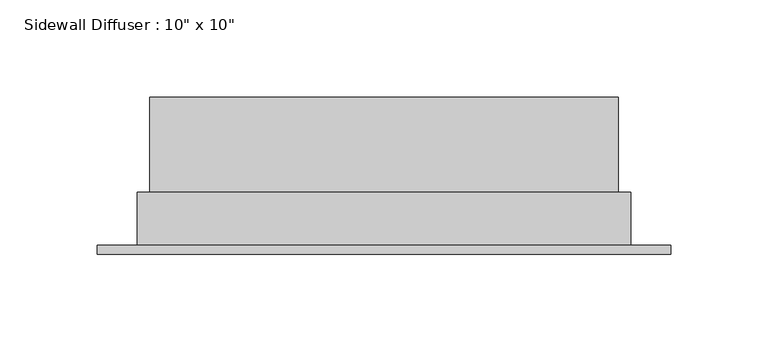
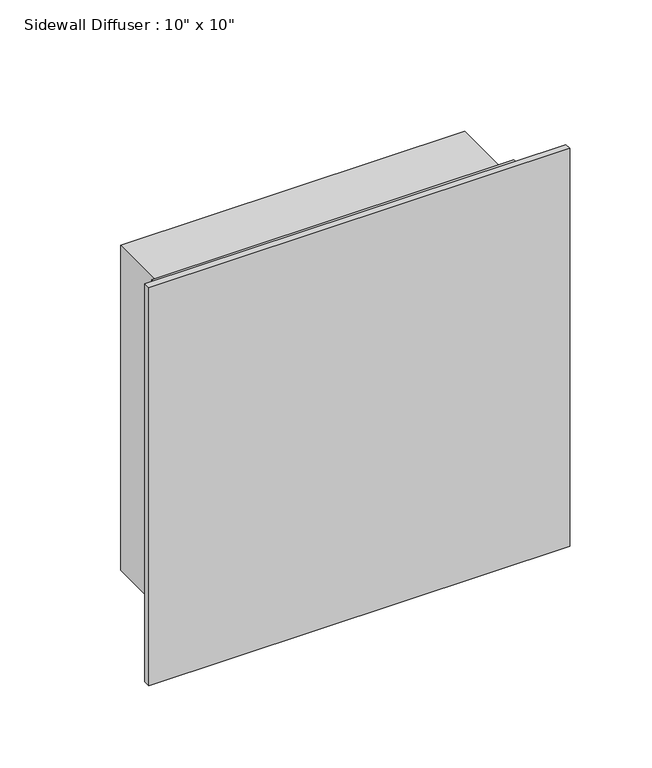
"""IFC4 building model written with IfcOpenShell, lengths in millimetres: air terminal geometry."""

from ifc_helpers import new_model, si_unit, frame, origin, place, context, project, spatial, polyline, outline, extrude, faceted_brep, source, transform, mapped, element, save


def air_terminal_79e12533(model_context):
    return source(origin(), model_context, "Body", "SolidModel", [
        faceted_brep([(-127.0, 27.384375, 127.0), (127.0, 27.384375, 127.0), (127.0, 27.384375, -127.0), (-127.0, 27.384375, -127.0), (-120.65, 27.384375, 120.65), (-120.65, 27.384375, -120.65), (120.65, 27.384375, -120.65), (120.65, 27.384375, 120.65), (-127.0, 0.0, -127.0), (-127.0, 0.0, 127.0), (127.0, 0.0, -127.0), (127.0, 0.0, 127.0), (-120.65, 76.2, 120.65), (120.65, 76.2, 120.65), (120.65, 76.2, -120.65), (-120.65, 76.2, -120.65)], [[[0, 1, 2, 3], [4, 5, 6, 7]], [[8, 9, 0, 3]], [[10, 8, 3, 2]], [[11, 10, 2, 1]], [[9, 11, 1, 0]], [[12, 13, 14, 15]], [[12, 15, 5, 4]], [[15, 14, 6, 5]], [[14, 13, 7, 6]], [[13, 12, 4, 7]], [[9, 8, 10, 11]]]),
        extrude(outline(polyline([(147.6375, -4.7625), (-147.6375, -4.7625), (-147.6375, 0.0), (147.6375, 0.0), (147.6375, -4.7625)])), frame((0.0, 0.0, -147.6375), z_axis=(0.0, 0.0, 1.0), x_axis=(1.0, 0.0, 0.0)), (0.0, 0.0, 1.0), 295.275),
    ])


if __name__ == "__main__":
    model = new_model("IFC4")
    model_context = context("Model", 3, world=origin())
    ifc_project = project(units=[si_unit("LENGTHUNIT", "METRE", prefix="MILLI")], contexts=[model_context])
    site = spatial("IfcSite", under=ifc_project)
    building = spatial("IfcBuilding", under=site)
    placement = place(None, origin())
    air_terminal_shape = air_terminal_79e12533(model_context)
    element("IfcAirTerminal", 1, ObjectType="Sidewall Diffuser : 10\" x 10\"", at=placement, inside=building, context=model_context, shape_type="MappedRepresentation", body=[
        mapped(air_terminal_shape, transform((0.0, 0.0, 0.0), x_axis=(1.0, 0.0, 0.0), y_axis=(0.0, 1.0, 0.0), z_axis=(0.0, 0.0, 1.0))),
    ])
    save(model, "model.ifc")
